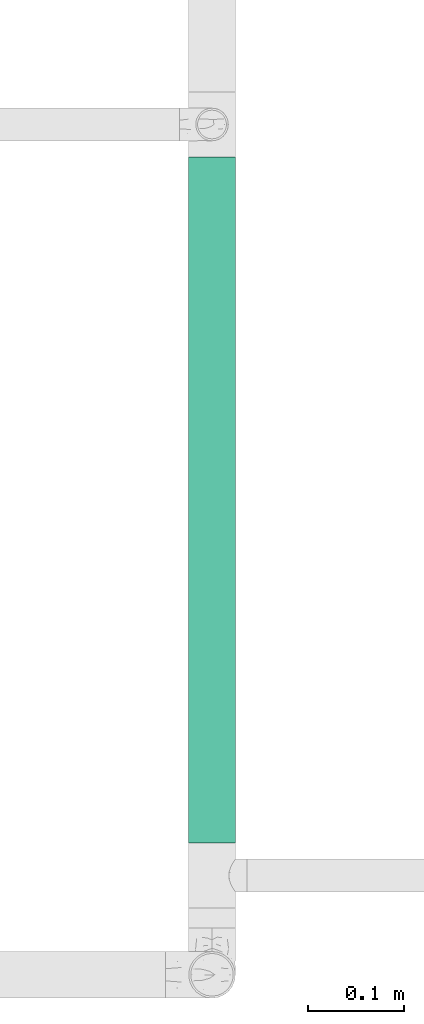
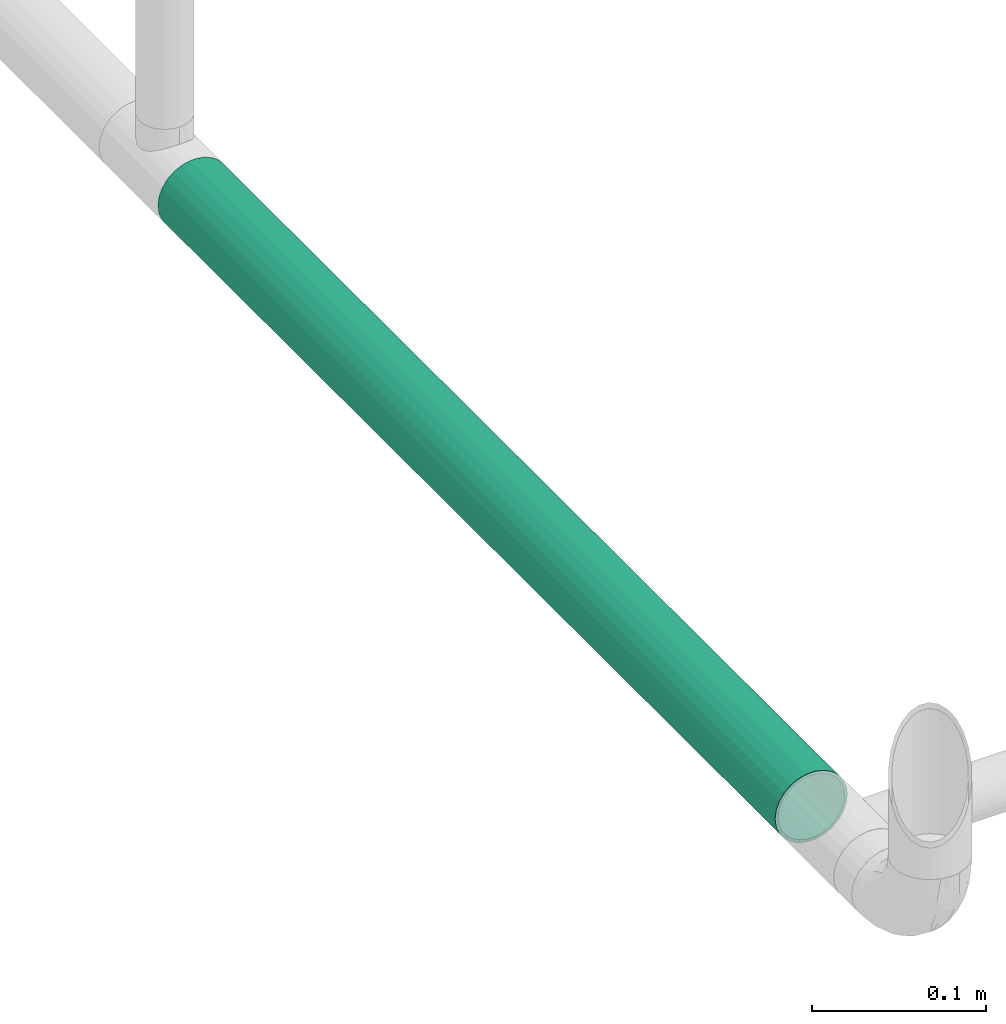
# One storey, part 6 of 157: 1 flow segment.
"""IFC2X3 building model written with IfcOpenShell, lengths in millimetres."""

from ifc_helpers import new_model, entity, si_unit, converted_unit, derived_unit, direction, frame, origin_with_axes, origin_2d_with_axis, place, context, subcontext, project, spatial, hollow_circle, extrude, source, transform, mapped, type_object, element, save


model = new_model("IFC2X3")

# Units and contexts
model_context = context("Model", 3, precision=0.01, world=frame((0.0, 4.29681676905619e-09, 0.0)), true_north=direction((4.01073788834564e-13, 1.0)))
plan_context = context("Plan", 3, precision=0.01, world=frame((0.0, 4.29681676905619e-09, 0.0)), true_north=direction((4.01073788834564e-13, 1.0)))
body_context = subcontext(model_context, "Body", "Model", "MODEL_VIEW")
ifc_project = project(units=[converted_unit("PLANEANGLEUNIT", "DEGREE", entity("IfcPositiveLengthMeasure", 0.0174532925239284), si_unit("PLANEANGLEUNIT", "RADIAN"), dimensions=[0, 0, 0, 0, 0, 0, 0]), si_unit("AREAUNIT", "SQUARE_METRE"), si_unit("LENGTHUNIT", "METRE", prefix="MILLI"), si_unit("MASSUNIT", "GRAM", prefix="KILO"), si_unit("POWERUNIT", "WATT"), si_unit("PRESSUREUNIT", "PASCAL"), si_unit("FORCEUNIT", "NEWTON", prefix="KILO"), si_unit("ELECTRICCURRENTUNIT", "AMPERE"), si_unit("THERMODYNAMICTEMPERATUREUNIT", "DEGREE_CELSIUS"), si_unit("TIMEUNIT", "SECOND"), si_unit("VOLUMEUNIT", "CUBIC_METRE"), derived_unit("LINEARVELOCITYUNIT", [(si_unit("LENGTHUNIT", "METRE"), 1), (si_unit("TIMEUNIT", "SECOND"), -1)]), derived_unit("VOLUMETRICFLOWRATEUNIT", [(si_unit("VOLUMEUNIT", "CUBIC_METRE"), 1), (si_unit("TIMEUNIT", "SECOND"), -1)]), derived_unit("THERMALTRANSMITTANCEUNIT", [(si_unit("POWERUNIT", "WATT"), 1), (si_unit("THERMODYNAMICTEMPERATUREUNIT", "KELVIN"), -1), (si_unit("AREAUNIT", "SQUARE_METRE"), -1)])], contexts=[model_context, plan_context])

# Site, building, storey
site_placement = place(None, frame((0.0, -4.29681676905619e-09, 0.0), z_axis=(0.0, 0.0, 1.0), x_axis=(1.0, 0.0, 0.0)))
site = spatial("IfcSite", under=ifc_project, at=site_placement, CompositionType="ELEMENT")
building_placement = place(site_placement, frame((0.0, 4.29681676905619e-09, 0.0), z_axis=(0.0, 0.0, 1.0), x_axis=(1.0, 0.0, 0.0)))
building = spatial("IfcBuilding", under=site, at=building_placement, Name="mc-building", CompositionType="ELEMENT")
storey_placement = place(building_placement, frame((0.0, 0.0, 204000.0), z_axis=(0.0, 0.0, 1.0), x_axis=(1.0, 0.0, 0.0)))
storey = spatial("IfcBuildingStorey", under=building, at=storey_placement, Name="Nivå D", CompositionType="ELEMENT", Elevation=204000.0)

# Flow segment
pipe_segment_type = type_object("IfcPipeSegmentType", Name="Stålrør normaltykke", PredefinedType="RIGIDSEGMENT")
shared_shape = source(origin_with_axes(), body_context, "Body", "SweptSolid", [
    extrude(hollow_circle(Radius=24.1, WallThickness=2.0, at=origin_2d_with_axis()), frame((0.0, 0.0, 0.0), z_axis=(1.0, 0.0, 0.0), x_axis=(0.0, 1.0, 0.0)), (0.0, 0.0, 1.0), 710.7),
])
flow_segment_placement = place(storey_placement, frame((531100.55939, 407455.45, 2690.0), z_axis=(0.0, 0.0, 1.0), x_axis=(0.0, 1.0, 0.0)))
element("IfcFlowSegment", 1, at=flow_segment_placement, inside=storey, type_object=pipe_segment_type, Name="Stålrør normaltykke", context=body_context, shape_type="MappedRepresentation", body=[
    mapped(shared_shape, transform((0.0, 0.0, 0.0), scale=1.0)),
])

save(model, "model.ifc")
